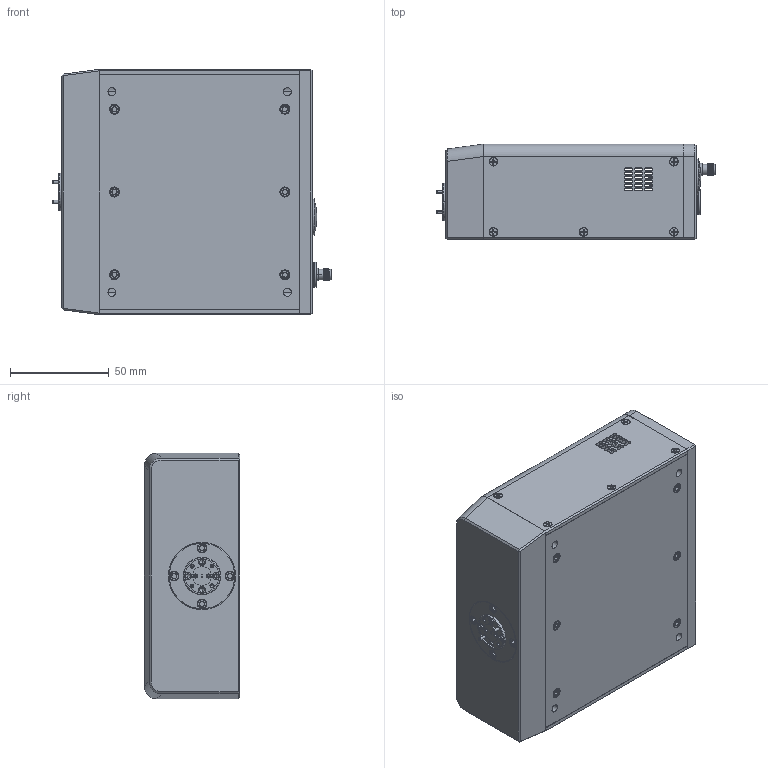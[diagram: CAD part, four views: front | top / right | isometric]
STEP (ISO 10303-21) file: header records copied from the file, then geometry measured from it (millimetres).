
FILE_DESCRIPTION (( 'STEP AP214' ), '1' );
FILE_NAME ('TE-G-A, Mountable.STEP', '2025-01-14T21:48:41', ( '' ), ( '' ), 'SwSTEP 2.0', 'SolidWorks 2021', '' );
FILE_SCHEMA (( 'AUTOMOTIVE_DESIGN' ));
Length unit declared in the file: inch
Products named in the file (1): TE-G-A, Mountable
Bounding box: 141.1 x 48.26 x 124.32 mm (x, y, z)
Volume: 280844.9 mm3; surface area: 134968.6 mm2
Topology: 38 solids, 38 shells, 2302 faces, 5960 edges, 3726 vertices
Faces by surface type: plane 940, cylinder 848, cone 419, bspline 64, torus 28, sphere 3
Entity records: 109364 total; most frequent: CARTESIAN_POINT 23963, ORIENTED_EDGE 11600, DIRECTION 11239, EDGE_CURVE 5800, AXIS2_PLACEMENT_3D 4210, VERTEX_POINT 3723, LINE 2819, VECTOR 2819
